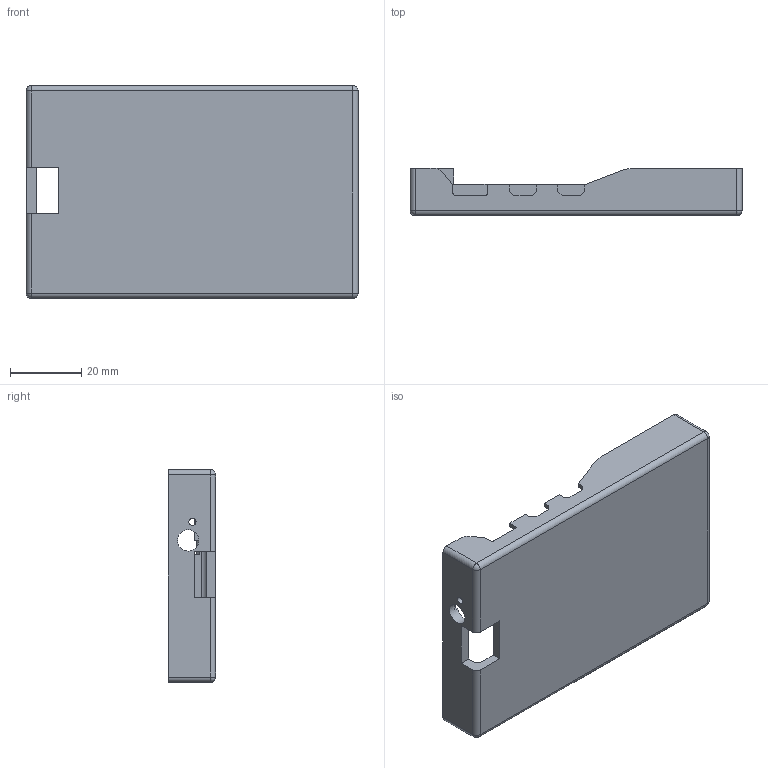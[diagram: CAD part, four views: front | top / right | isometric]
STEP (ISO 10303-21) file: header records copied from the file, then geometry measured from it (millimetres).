
FILE_DESCRIPTION(/* description */ (''),/* implementation_level */ '2;1');
FILE_NAME(/* name */ 'PINS-Bottom.step',/* time_stamp */ '2024-01-19T15:04:36-05:00',/* author */ (''),/* organization */ (''),/* preprocessor_version */ 'ST-DEVELOPER v20',/* originating_system */ 'Autodesk Translation Framework v12.14.0.127',/* authorisation */ '');
FILE_SCHEMA (('AUTOMOTIVE_DESIGN { 1 0 10303 214 3 1 1 }'));
Length unit declared in the file: millimetre
Products named in the file (2): PiWu; V2
Assembly tree (1 placements, depth 2):
  PiWu
    V2
Bounding box: 93.1 x 13.28 x 59.65 mm (x, y, z)
Volume: 17839.3 mm3; surface area: 16215.5 mm2
Topology: 1 solids, 1 shells, 130 faces, 339 edges, 218 vertices
Faces by surface type: plane 86, cylinder 34, sphere 8, cone 2
Full cylindrical faces by diameter (mm): 2 x1, 2.3 x4, 4 x4, 6 x1
Entity records: 4027 total; most frequent: CARTESIAN_POINT 716, DIRECTION 683, ORIENTED_EDGE 678, EDGE_CURVE 339, LINE 257, VECTOR 257, VERTEX_POINT 218, AXIS2_PLACEMENT_3D 213
